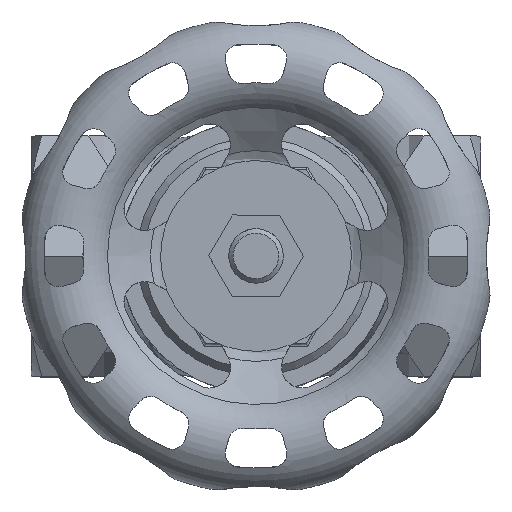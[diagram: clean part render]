
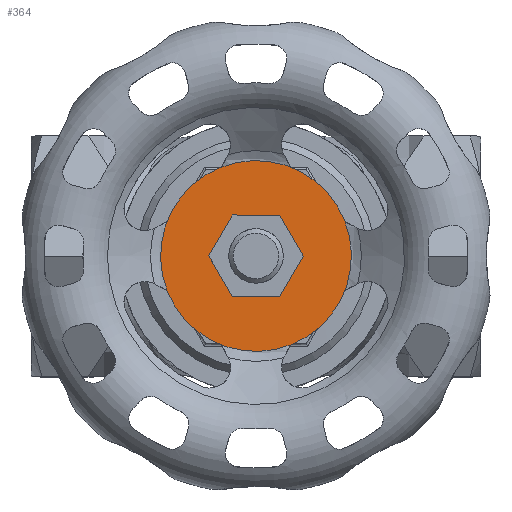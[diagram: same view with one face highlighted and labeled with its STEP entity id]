
A CAD part, top view. The second image highlights one B-rep face of the part: STEP entity #364.
In plain terms, the highlighted planar face has unit normal (0, 0, 1).
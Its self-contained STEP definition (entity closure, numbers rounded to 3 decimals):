
#132=CARTESIAN_POINT('',(27.357,4.42,73.2));
#133=VERTEX_POINT('',#132);
#140=CARTESIAN_POINT('',(22.161,4.43,73.2));
#141=VERTEX_POINT('',#140);
#142=CARTESIAN_POINT('',(22.161,4.43,73.2));
#143=DIRECTION('',(1.,-0.002,0.0));
#144=VECTOR('',#143,5.196);
#145=LINE('',#142,#144);
#146=EDGE_CURVE('',#141,#133,#145,.T.);
#170=CARTESIAN_POINT('',(29.946,-0.085,73.2));
#171=VERTEX_POINT('',#170);
#178=CARTESIAN_POINT('',(27.357,4.42,73.2));
#179=DIRECTION('',(0.498,-0.867,0.0));
#180=VECTOR('',#179,5.196);
#181=LINE('',#178,#180);
#182=EDGE_CURVE('',#133,#171,#181,.T.);
#201=CARTESIAN_POINT('',(27.339,-4.58,73.2));
#202=VERTEX_POINT('',#201);
#209=CARTESIAN_POINT('',(29.946,-0.085,73.2));
#210=DIRECTION('',(-0.502,-0.865,0.0));
#211=VECTOR('',#210,5.196);
#212=LINE('',#209,#211);
#213=EDGE_CURVE('',#171,#202,#212,.T.);
#232=CARTESIAN_POINT('',(22.143,-4.57,73.2));
#233=VERTEX_POINT('',#232);
#240=CARTESIAN_POINT('',(27.339,-4.58,73.2));
#241=DIRECTION('',(-1.,0.002,0.0));
#242=VECTOR('',#241,5.196);
#243=LINE('',#240,#242);
#244=EDGE_CURVE('',#202,#233,#243,.T.);
#263=CARTESIAN_POINT('',(19.554,-0.065,73.2));
#264=VERTEX_POINT('',#263);
#271=CARTESIAN_POINT('',(22.143,-4.57,73.2));
#272=DIRECTION('',(-0.498,0.867,0.0));
#273=VECTOR('',#272,5.196);
#274=LINE('',#271,#273);
#275=EDGE_CURVE('',#233,#264,#274,.T.);
#293=CARTESIAN_POINT('',(19.554,-0.065,73.2));
#294=DIRECTION('',(0.502,0.865,0.0));
#295=VECTOR('',#294,5.196);
#296=LINE('',#293,#295);
#297=EDGE_CURVE('',#264,#141,#296,.T.);
#325=CARTESIAN_POINT('',(15.813,-5.586,73.2));
#326=VERTEX_POINT('',#325);
#327=CARTESIAN_POINT('',(24.75,-0.075,73.2));
#328=DIRECTION('',(0.0,0.0,-1.));
#329=DIRECTION('',(0.851,0.525,0.0));
#330=AXIS2_PLACEMENT_3D('',#327,#328,#329);
#331=CIRCLE('',#330,10.5);
#332=EDGE_CURVE('',#326,#326,#331,.T.);
#348=CARTESIAN_POINT('',(24.75,-0.075,73.2));
#349=DIRECTION('',(0.0,0.0,-1.0));
#350=DIRECTION('',(0.851,0.525,0.0));
#351=AXIS2_PLACEMENT_3D('',#348,#349,#350);
#352=PLANE('',#351);
#353=ORIENTED_EDGE('',*,*,#332,.F.);
#354=EDGE_LOOP('',(#353));
#355=FACE_OUTER_BOUND('',#354,.T.);
#356=ORIENTED_EDGE('',*,*,#146,.T.);
#357=ORIENTED_EDGE('',*,*,#182,.T.);
#358=ORIENTED_EDGE('',*,*,#213,.T.);
#359=ORIENTED_EDGE('',*,*,#244,.T.);
#360=ORIENTED_EDGE('',*,*,#275,.T.);
#361=ORIENTED_EDGE('',*,*,#297,.T.);
#362=EDGE_LOOP('',(#356,#357,#358,#359,#360,#361));
#363=FACE_BOUND('',#362,.T.);
#364=ADVANCED_FACE('',(#355,#363),#352,.F.);
